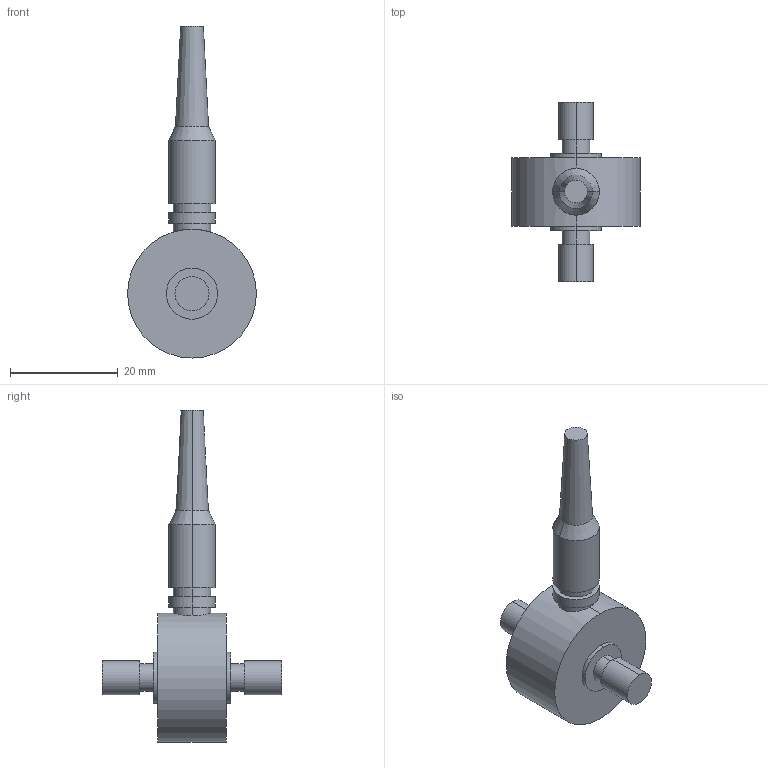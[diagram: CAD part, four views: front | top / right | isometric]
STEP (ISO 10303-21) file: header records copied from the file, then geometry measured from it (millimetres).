
FILE_DESCRIPTION (( 'STEP AP214' ), '1' );
FILE_NAME ('FINAL ASBY SS1383-1KLB.STEP', '2024-08-12T15:07:42', ( '' ), ( '' ), 'SwSTEP 2.0', 'SolidWorks 2008', '' );
FILE_SCHEMA (( 'AUTOMOTIVE_DESIGN' ));
Length unit declared in the file: inch
Products named in the file (1): FINAL ASBY SS1383-1KLB
Bounding box: 23.88 x 33.27 x 61.57 mm (x, y, z)
Volume: 7763 mm3; surface area: 3144.9 mm2
Topology: 1 solids, 1 shells, 38 faces, 77 edges, 50 vertices
Faces by surface type: cylinder 22, plane 12, cone 4
Entity records: 1100 total; most frequent: CARTESIAN_POINT 232, DIRECTION 197, ORIENTED_EDGE 154, AXIS2_PLACEMENT_3D 85, EDGE_CURVE 77, VERTEX_POINT 50, EDGE_LOOP 47, CIRCLE 46
